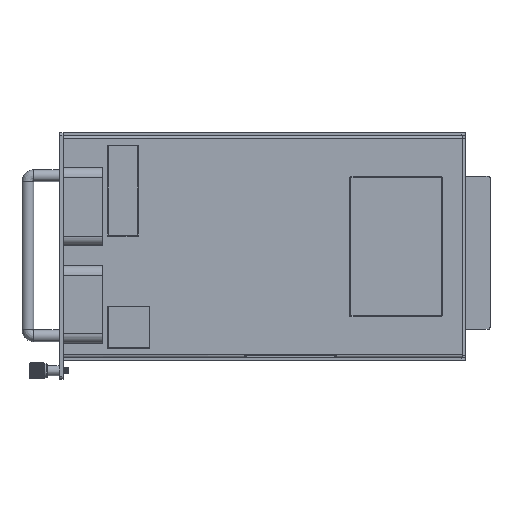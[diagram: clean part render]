
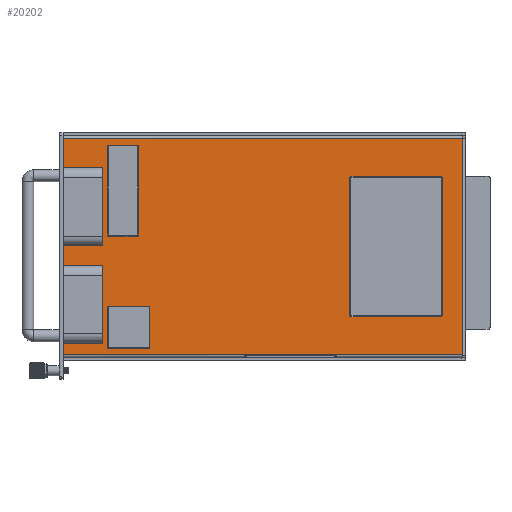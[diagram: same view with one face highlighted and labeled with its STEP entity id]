
A CAD part, top view. The second image highlights one B-rep face of the part: STEP entity #20202.
In plain terms, the highlighted planar face has unit normal (0, 0, 1).
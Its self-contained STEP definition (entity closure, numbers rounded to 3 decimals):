
#5234=DIRECTION('',(1.,0.,0.));
#5235=VECTOR('',#5234,20.2);
#5236=CARTESIAN_POINT('',(-103.,-9.65,38.7));
#5237=LINE('',#5236,#5235);
#5238=DIRECTION('',(0.,1.,0.));
#5239=VECTOR('',#5238,10.);
#5240=CARTESIAN_POINT('',(-103.,-9.65,38.7));
#5241=LINE('',#5240,#5239);
#5242=DIRECTION('',(1.,0.,0.));
#5243=VECTOR('',#5242,20.2);
#5244=CARTESIAN_POINT('',(-103.,0.35,38.7));
#5245=LINE('',#5244,#5243);
#5246=DIRECTION('',(0.,-1.,0.));
#5247=VECTOR('',#5246,32.8);
#5248=CARTESIAN_POINT('',(-82.8,33.15,38.7));
#5249=LINE('',#5248,#5247);
#5250=DIRECTION('',(0.,-1.,0.));
#5251=VECTOR('',#5250,7.3);
#5252=CARTESIAN_POINT('',(-82.8,40.45,38.7));
#5253=LINE('',#5252,#5251);
#5254=DIRECTION('',(1.,0.,0.));
#5255=VECTOR('',#5254,20.2);
#5256=CARTESIAN_POINT('',(-103.,40.45,38.7));
#5257=LINE('',#5256,#5255);
#5258=DIRECTION('',(0.,1.,0.));
#5259=VECTOR('',#5258,15.);
#5260=CARTESIAN_POINT('',(-103.,40.45,38.7));
#5261=LINE('',#5260,#5259);
#5262=DIRECTION('',(0.,1.,0.));
#5263=VECTOR('',#5262,5.7);
#5264=CARTESIAN_POINT('',(-103.,-55.45,38.7));
#5265=LINE('',#5264,#5263);
#5266=DIRECTION('',(1.,0.,0.));
#5267=VECTOR('',#5266,20.);
#5268=CARTESIAN_POINT('',(-103.,-49.75,38.7));
#5269=LINE('',#5268,#5267);
#5270=DIRECTION('',(1.,0.,0.));
#5271=VECTOR('',#5270,0.2);
#5272=CARTESIAN_POINT('',(-83.,-49.75,38.7));
#5273=LINE('',#5272,#5271);
#5274=DIRECTION('',(0.,-1.,0.));
#5275=VECTOR('',#5274,7.3);
#5276=CARTESIAN_POINT('',(-82.8,-42.45,38.7));
#5277=LINE('',#5276,#5275);
#5278=DIRECTION('',(0.,-1.,0.));
#5279=VECTOR('',#5278,32.8);
#5280=CARTESIAN_POINT('',(-82.8,-9.65,38.7));
#5281=LINE('',#5280,#5279);
#5282=CARTESIAN_POINT('',(90.5,-35.,38.7));
#5283=DIRECTION('',(0.,0.,1.));
#5284=DIRECTION('',(0.,-1.,0.));
#5285=AXIS2_PLACEMENT_3D('',#5282,#5283,#5284);
#5287=DIRECTION('',(0.,1.,0.));
#5288=VECTOR('',#5287,70.);
#5289=CARTESIAN_POINT('',(91.3,-35.,38.7));
#5290=LINE('',#5289,#5288);
#5291=CARTESIAN_POINT('',(90.5,35.,38.7));
#5292=DIRECTION('',(0.,0.,1.));
#5293=DIRECTION('',(1.,0.,0.));
#5294=AXIS2_PLACEMENT_3D('',#5291,#5292,#5293);
#5296=DIRECTION('',(-1.,0.,0.));
#5297=VECTOR('',#5296,46.);
#5298=CARTESIAN_POINT('',(90.5,35.8,38.7));
#5299=LINE('',#5298,#5297);
#5300=CARTESIAN_POINT('',(44.5,35.,38.7));
#5301=DIRECTION('',(0.,0.,1.));
#5302=DIRECTION('',(0.,1.,0.));
#5303=AXIS2_PLACEMENT_3D('',#5300,#5301,#5302);
#5305=DIRECTION('',(0.,-1.,0.));
#5306=VECTOR('',#5305,70.);
#5307=CARTESIAN_POINT('',(43.7,35.,38.7));
#5308=LINE('',#5307,#5306);
#5309=CARTESIAN_POINT('',(44.5,-35.,38.7));
#5310=DIRECTION('',(0.,0.,1.));
#5311=DIRECTION('',(-1.,0.,0.));
#5312=AXIS2_PLACEMENT_3D('',#5309,#5310,#5311);
#5314=DIRECTION('',(1.,0.,0.));
#5315=VECTOR('',#5314,46.);
#5316=CARTESIAN_POINT('',(44.5,-35.8,38.7));
#5317=LINE('',#5316,#5315);
#5318=DIRECTION('',(-1.,0.,0.));
#5319=VECTOR('',#5318,15.6);
#5320=CARTESIAN_POINT('',(-64.5,52.05,38.7));
#5321=LINE('',#5320,#5319);
#5322=DIRECTION('',(0.,-1.,0.));
#5323=VECTOR('',#5322,46.6);
#5324=CARTESIAN_POINT('',(-80.1,52.05,38.7));
#5325=LINE('',#5324,#5323);
#5326=DIRECTION('',(1.,0.,0.));
#5327=VECTOR('',#5326,15.6);
#5328=CARTESIAN_POINT('',(-80.1,5.45,38.7));
#5329=LINE('',#5328,#5327);
#5330=DIRECTION('',(0.,1.,0.));
#5331=VECTOR('',#5330,46.6);
#5332=CARTESIAN_POINT('',(-64.5,5.45,38.7));
#5333=LINE('',#5332,#5331);
#5334=DIRECTION('',(1.,0.,0.));
#5335=VECTOR('',#5334,21.6);
#5336=CARTESIAN_POINT('',(-80.1,-52.05,38.7));
#5337=LINE('',#5336,#5335);
#5338=DIRECTION('',(0.,1.,0.));
#5339=VECTOR('',#5338,21.6);
#5340=CARTESIAN_POINT('',(-58.5,-52.05,38.7));
#5341=LINE('',#5340,#5339);
#5342=DIRECTION('',(-1.,0.,0.));
#5343=VECTOR('',#5342,21.6);
#5344=CARTESIAN_POINT('',(-58.5,-30.45,38.7));
#5345=LINE('',#5344,#5343);
#5346=DIRECTION('',(0.,-1.,0.));
#5347=VECTOR('',#5346,21.6);
#5348=CARTESIAN_POINT('',(-80.1,-30.45,38.7));
#5349=LINE('',#5348,#5347);
#8796=DIRECTION('',(0.,-1.,0.));
#8797=VECTOR('',#8796,110.9);
#8798=CARTESIAN_POINT('',(101.7,55.45,38.7));
#8799=LINE('',#8798,#8797);
#12130=DIRECTION('',(-1.,0.,0.));
#12131=VECTOR('',#12130,204.7);
#12132=CARTESIAN_POINT('',(101.7,-55.45,38.7));
#12133=LINE('',#12132,#12131);
#12264=DIRECTION('',(1.,0.,0.));
#12265=VECTOR('',#12264,204.7);
#12266=CARTESIAN_POINT('',(-103.,55.45,38.7));
#12267=LINE('',#12266,#12265);
#16432=CARTESIAN_POINT('',(-103.,-55.45,38.7));
#16434=VERTEX_POINT('',#16432);
#16435=CARTESIAN_POINT('',(101.7,-55.45,38.7));
#16436=VERTEX_POINT('',#16435);
#16447=CARTESIAN_POINT('',(101.7,55.45,38.7));
#16448=VERTEX_POINT('',#16447);
#16454=CARTESIAN_POINT('',(-103.,55.45,38.7));
#16456=VERTEX_POINT('',#16454);
#16469=CARTESIAN_POINT('',(-103.,-9.65,38.7));
#16470=CARTESIAN_POINT('',(-82.8,-9.65,38.7));
#16471=VERTEX_POINT('',#16469);
#16472=VERTEX_POINT('',#16470);
#16473=CARTESIAN_POINT('',(-82.8,-42.45,38.7));
#16474=VERTEX_POINT('',#16473);
#16475=CARTESIAN_POINT('',(-103.,-49.75,38.7));
#16476=CARTESIAN_POINT('',(-83.,-49.75,38.7));
#16477=VERTEX_POINT('',#16475);
#16478=VERTEX_POINT('',#16476);
#16479=CARTESIAN_POINT('',(-103.,40.45,38.7));
#16480=CARTESIAN_POINT('',(-82.8,40.45,38.7));
#16481=VERTEX_POINT('',#16479);
#16482=VERTEX_POINT('',#16480);
#16483=CARTESIAN_POINT('',(-82.8,33.15,38.7));
#16484=CARTESIAN_POINT('',(-82.8,0.35,38.7));
#16485=VERTEX_POINT('',#16483);
#16486=VERTEX_POINT('',#16484);
#16487=CARTESIAN_POINT('',(-103.,0.35,38.7));
#16488=VERTEX_POINT('',#16487);
#16551=CARTESIAN_POINT('',(-82.8,-49.75,38.7));
#16552=VERTEX_POINT('',#16551);
#19907=CARTESIAN_POINT('',(90.5,-35.8,38.7));
#19908=CARTESIAN_POINT('',(91.3,-35.,38.7));
#19909=VERTEX_POINT('',#19907);
#19910=VERTEX_POINT('',#19908);
#19911=CARTESIAN_POINT('',(91.3,35.,38.7));
#19912=VERTEX_POINT('',#19911);
#19913=CARTESIAN_POINT('',(90.5,35.8,38.7));
#19914=VERTEX_POINT('',#19913);
#19915=CARTESIAN_POINT('',(44.5,35.8,38.7));
#19916=VERTEX_POINT('',#19915);
#19917=CARTESIAN_POINT('',(43.7,35.,38.7));
#19918=VERTEX_POINT('',#19917);
#19919=CARTESIAN_POINT('',(43.7,-35.,38.7));
#19920=VERTEX_POINT('',#19919);
#19921=CARTESIAN_POINT('',(44.5,-35.8,38.7));
#19922=VERTEX_POINT('',#19921);
#19963=CARTESIAN_POINT('',(-64.5,52.05,38.7));
#19964=CARTESIAN_POINT('',(-80.1,52.05,38.7));
#19965=VERTEX_POINT('',#19963);
#19966=VERTEX_POINT('',#19964);
#19967=CARTESIAN_POINT('',(-80.1,5.45,38.7));
#19968=VERTEX_POINT('',#19967);
#19969=CARTESIAN_POINT('',(-64.5,5.45,38.7));
#19970=VERTEX_POINT('',#19969);
#19995=CARTESIAN_POINT('',(-80.1,-52.05,38.7));
#19996=CARTESIAN_POINT('',(-58.5,-52.05,38.7));
#19997=VERTEX_POINT('',#19995);
#19998=VERTEX_POINT('',#19996);
#19999=CARTESIAN_POINT('',(-80.1,-30.45,38.7));
#20000=VERTEX_POINT('',#19999);
#20001=CARTESIAN_POINT('',(-58.5,-30.45,38.7));
#20002=VERTEX_POINT('',#20001);
#20127=CARTESIAN_POINT('',(0.,0.,38.7));
#20128=DIRECTION('',(0.,0.,1.));
#20129=DIRECTION('',(1.,0.,0.));
#20130=AXIS2_PLACEMENT_3D('',#20127,#20128,#20129);
#20131=PLANE('',#20130);
#20133=ORIENTED_EDGE('',*,*,#20132,.F.);
#20135=ORIENTED_EDGE('',*,*,#20134,.T.);
#20137=ORIENTED_EDGE('',*,*,#20136,.T.);
#20139=ORIENTED_EDGE('',*,*,#20138,.F.);
#20141=ORIENTED_EDGE('',*,*,#20140,.F.);
#20143=ORIENTED_EDGE('',*,*,#20142,.F.);
#20145=ORIENTED_EDGE('',*,*,#20144,.T.);
#20147=ORIENTED_EDGE('',*,*,#20146,.T.);
#20149=ORIENTED_EDGE('',*,*,#20148,.T.);
#20151=ORIENTED_EDGE('',*,*,#20150,.T.);
#20153=ORIENTED_EDGE('',*,*,#20152,.T.);
#20155=ORIENTED_EDGE('',*,*,#20154,.T.);
#20157=ORIENTED_EDGE('',*,*,#20156,.T.);
#20159=ORIENTED_EDGE('',*,*,#20158,.F.);
#20161=ORIENTED_EDGE('',*,*,#20160,.F.);
#20162=EDGE_LOOP('',(#20133,#20135,#20137,#20139,#20141,#20143,#20145,#20147,
#20149,#20151,#20153,#20155,#20157,#20159,#20161));
#20163=FACE_OUTER_BOUND('',#20162,.F.);
#20165=ORIENTED_EDGE('',*,*,#20164,.T.);
#20167=ORIENTED_EDGE('',*,*,#20166,.T.);
#20169=ORIENTED_EDGE('',*,*,#20168,.T.);
#20171=ORIENTED_EDGE('',*,*,#20170,.T.);
#20173=ORIENTED_EDGE('',*,*,#20172,.T.);
#20175=ORIENTED_EDGE('',*,*,#20174,.T.);
#20177=ORIENTED_EDGE('',*,*,#20176,.T.);
#20179=ORIENTED_EDGE('',*,*,#20178,.T.);
#20180=EDGE_LOOP('',(#20165,#20167,#20169,#20171,#20173,#20175,#20177,#20179));
#20181=FACE_BOUND('',#20180,.F.);
#20183=ORIENTED_EDGE('',*,*,#20182,.T.);
#20185=ORIENTED_EDGE('',*,*,#20184,.T.);
#20187=ORIENTED_EDGE('',*,*,#20186,.T.);
#20189=ORIENTED_EDGE('',*,*,#20188,.T.);
#20190=EDGE_LOOP('',(#20183,#20185,#20187,#20189));
#20191=FACE_BOUND('',#20190,.F.);
#20193=ORIENTED_EDGE('',*,*,#20192,.T.);
#20195=ORIENTED_EDGE('',*,*,#20194,.T.);
#20197=ORIENTED_EDGE('',*,*,#20196,.T.);
#20199=ORIENTED_EDGE('',*,*,#20198,.T.);
#20200=EDGE_LOOP('',(#20193,#20195,#20197,#20199));
#20201=FACE_BOUND('',#20200,.F.);
#20202=ADVANCED_FACE('',(#20163,#20181,#20191,#20201),#20131,.T.);
#5286=CIRCLE('',#5285,0.8);
#5295=CIRCLE('',#5294,0.8);
#5304=CIRCLE('',#5303,0.8);
#5313=CIRCLE('',#5312,0.8);
#20132=EDGE_CURVE('',#16471,#16472,#5237,.T.);
#20134=EDGE_CURVE('',#16471,#16488,#5241,.T.);
#20136=EDGE_CURVE('',#16488,#16486,#5245,.T.);
#20138=EDGE_CURVE('',#16485,#16486,#5249,.T.);
#20140=EDGE_CURVE('',#16482,#16485,#5253,.T.);
#20142=EDGE_CURVE('',#16481,#16482,#5257,.T.);
#20144=EDGE_CURVE('',#16481,#16456,#5261,.T.);
#20146=EDGE_CURVE('',#16456,#16448,#12267,.T.);
#20148=EDGE_CURVE('',#16448,#16436,#8799,.T.);
#20150=EDGE_CURVE('',#16436,#16434,#12133,.T.);
#20152=EDGE_CURVE('',#16434,#16477,#5265,.T.);
#20154=EDGE_CURVE('',#16477,#16478,#5269,.T.);
#20156=EDGE_CURVE('',#16478,#16552,#5273,.T.);
#20158=EDGE_CURVE('',#16474,#16552,#5277,.T.);
#20160=EDGE_CURVE('',#16472,#16474,#5281,.T.);
#20164=EDGE_CURVE('',#19909,#19910,#5286,.T.);
#20166=EDGE_CURVE('',#19910,#19912,#5290,.T.);
#20168=EDGE_CURVE('',#19912,#19914,#5295,.T.);
#20170=EDGE_CURVE('',#19914,#19916,#5299,.T.);
#20172=EDGE_CURVE('',#19916,#19918,#5304,.T.);
#20174=EDGE_CURVE('',#19918,#19920,#5308,.T.);
#20176=EDGE_CURVE('',#19920,#19922,#5313,.T.);
#20178=EDGE_CURVE('',#19922,#19909,#5317,.T.);
#20182=EDGE_CURVE('',#19965,#19966,#5321,.T.);
#20184=EDGE_CURVE('',#19966,#19968,#5325,.T.);
#20186=EDGE_CURVE('',#19968,#19970,#5329,.T.);
#20188=EDGE_CURVE('',#19970,#19965,#5333,.T.);
#20192=EDGE_CURVE('',#19997,#19998,#5337,.T.);
#20194=EDGE_CURVE('',#19998,#20002,#5341,.T.);
#20196=EDGE_CURVE('',#20002,#20000,#5345,.T.);
#20198=EDGE_CURVE('',#20000,#19997,#5349,.T.);
